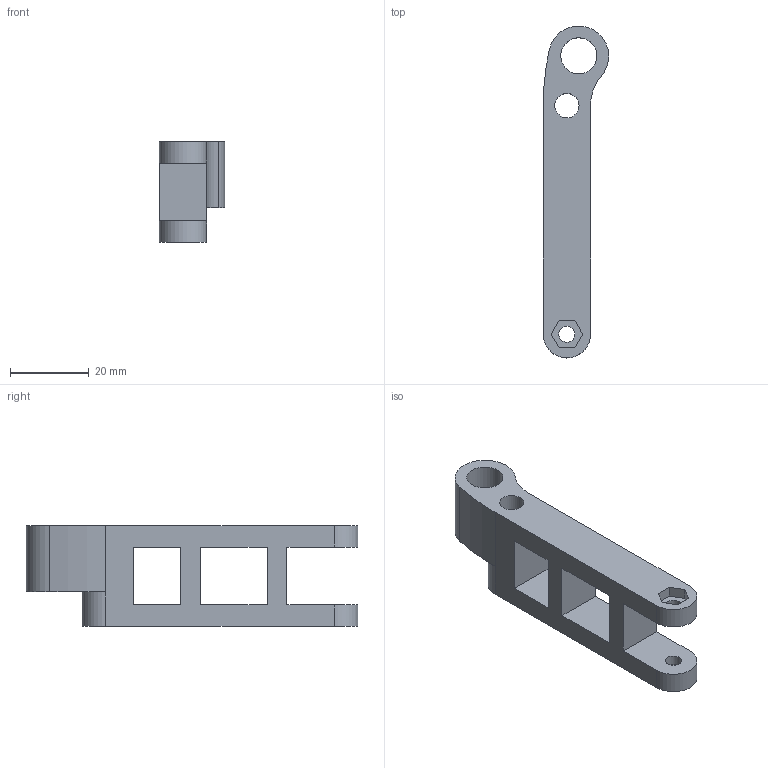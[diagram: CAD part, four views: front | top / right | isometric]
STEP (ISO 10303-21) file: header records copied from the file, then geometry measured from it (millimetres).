
FILE_DESCRIPTION(('sldprt2step conversion of Parasolid XT B-rep'),'2;1');
FILE_NAME('outerbar_left.SLDPRT','',(''),(''),'sldprt2step','','');
FILE_SCHEMA(('AUTOMOTIVE_DESIGN { 1 0 10303 214 1 1 1 1 }'));
Length unit declared in the file: millimetre
Products named in the file (1): outerbar_left
Bounding box: 16.61 x 84.21 x 25.5 mm (x, y, z)
Volume: 13867.2 mm3; surface area: 7914.4 mm2
Topology: 1 solids, 1 shells, 35 faces, 91 edges, 60 vertices
Faces by surface type: plane 24, cylinder 11
Full cylindrical faces by diameter (mm): 4.1 x2, 6.16 x1, 8 x1, 9.16 x1
Entity records: 1069 total; most frequent: CARTESIAN_POINT 180, DIRECTION 176, ORIENTED_EDGE 172, EDGE_CURVE 86, VECTOR 64, LINE 64, VERTEX_POINT 60, AXIS2_PLACEMENT_3D 56
